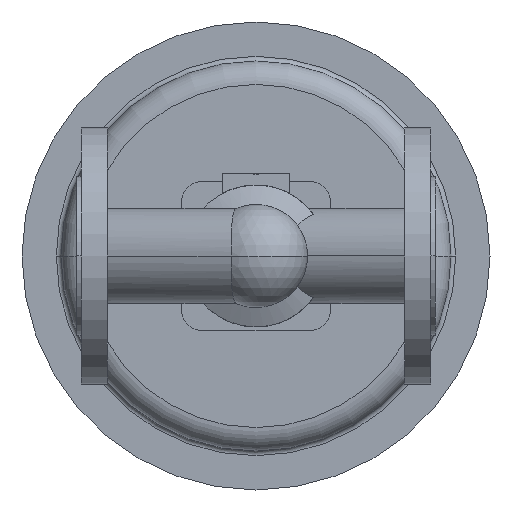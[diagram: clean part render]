
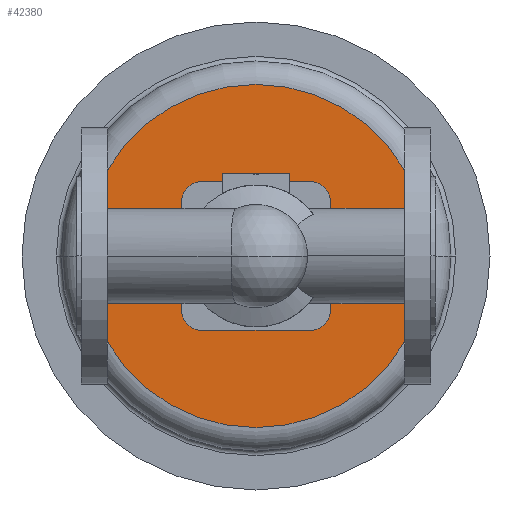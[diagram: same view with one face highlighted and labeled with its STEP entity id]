
A CAD part, front view. The second image highlights one B-rep face of the part: STEP entity #42380.
In plain terms, the highlighted planar face has unit normal (0, -1, 0).
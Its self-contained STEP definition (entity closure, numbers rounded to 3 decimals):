
#34540=CARTESIAN_POINT('',(5.,369.,0.));
#34550=VERTEX_POINT('',#34540);
#34580=CARTESIAN_POINT('',(115.,369.,0.));
#34590=DIRECTION('',(0.,1.,0.));
#34600=DIRECTION('',(1.,0.,0.));
#34610=AXIS2_PLACEMENT_3D('',#34580,#34590,#34600);
#34620=CIRCLE('',#34610,110.);
#34630=CARTESIAN_POINT('',(225.,369.,0.));
#34640=VERTEX_POINT('',#34630);
#34650=EDGE_CURVE('',#34640,#34550,#34620,.T.);
#35310=CARTESIAN_POINT('',(180.,369.,0.));
#35320=VERTEX_POINT('',#35310);
#35480=CARTESIAN_POINT('',(150.,369.,0.));
#35490=VERTEX_POINT('',#35480);
#35520=CARTESIAN_POINT('',(165.,369.,0.));
#35530=DIRECTION('',(0.,1.,0.));
#35540=DIRECTION('',(1.,0.,0.));
#35550=AXIS2_PLACEMENT_3D('',#35520,#35530,#35540);
#35560=CIRCLE('',#35550,15.);
#35570=EDGE_CURVE('',#35490,#35320,#35560,.T.);
#35730=CARTESIAN_POINT('',(50.,369.,0.));
#35740=VERTEX_POINT('',#35730);
#35770=CARTESIAN_POINT('',(65.,369.,0.));
#35780=DIRECTION('',(0.,1.,0.));
#35790=DIRECTION('',(1.,0.,0.));
#35800=AXIS2_PLACEMENT_3D('',#35770,#35780,#35790);
#35810=CIRCLE('',#35800,15.);
#35820=CARTESIAN_POINT('',(80.,369.,0.));
#35830=VERTEX_POINT('',#35820);
#35840=EDGE_CURVE('',#35740,#35830,#35810,.T.);
#36130=CARTESIAN_POINT('',(133.45,369.,0.));
#36140=VERTEX_POINT('',#36130);
#36190=CARTESIAN_POINT('',(115.,369.,0.));
#36200=DIRECTION('',(0.,1.,0.));
#36210=DIRECTION('',(1.,0.,0.));
#36220=AXIS2_PLACEMENT_3D('',#36190,#36200,#36210);
#36230=CIRCLE('',#36220,18.45);
#36240=CARTESIAN_POINT('',(96.55,369.,0.));
#36250=VERTEX_POINT('',#36240);
#36260=EDGE_CURVE('',#36140,#36250,#36230,.T.);
#42090=CARTESIAN_POINT('',(170.,369.,0.));
#42100=DIRECTION('',(0.,-1.,0.));
#42110=DIRECTION('',(-1.,0.,0.));
#42120=AXIS2_PLACEMENT_3D('',#42090,#42100,#42110);
#42130=PLANE('',#42120);
#42140=EDGE_CURVE('',#36250,#36140,#36230,.T.);
#42150=ORIENTED_EDGE('',*,*,#42140,.T.);
#42160=ORIENTED_EDGE('',*,*,#36260,.T.);
#42170=EDGE_LOOP('',(#42160,#42150));
#42180=FACE_BOUND('',#42170,.T.);
#42190=ORIENTED_EDGE('',*,*,#35840,.T.);
#42200=EDGE_CURVE('',#35830,#35740,#35810,.T.);
#42210=ORIENTED_EDGE('',*,*,#42200,.T.);
#42220=EDGE_LOOP('',(#42210,#42190));
#42230=FACE_BOUND('',#42220,.T.);
#42240=EDGE_CURVE('',#35320,#35490,#35560,.T.);
#42250=ORIENTED_EDGE('',*,*,#42240,.T.);
#42260=ORIENTED_EDGE('',*,*,#35570,.T.);
#42270=EDGE_LOOP('',(#42260,#42250));
#42280=FACE_BOUND('',#42270,.T.);
#42290=CARTESIAN_POINT('',(115.,369.,110.));
#42300=VERTEX_POINT('',#42290);
#42310=EDGE_CURVE('',#42300,#34640,#34620,.T.);
#42320=ORIENTED_EDGE('',*,*,#42310,.F.);
#42330=ORIENTED_EDGE('',*,*,#34650,.F.);
#42340=EDGE_CURVE('',#34550,#42300,#34620,.T.);
#42350=ORIENTED_EDGE('',*,*,#42340,.F.);
#42360=EDGE_LOOP('',(#42350,#42330,#42320));
#42370=FACE_OUTER_BOUND('',#42360,.T.);
#42380=ADVANCED_FACE('',(#42180,#42230,#42280,#42370),#42130,.T.);
